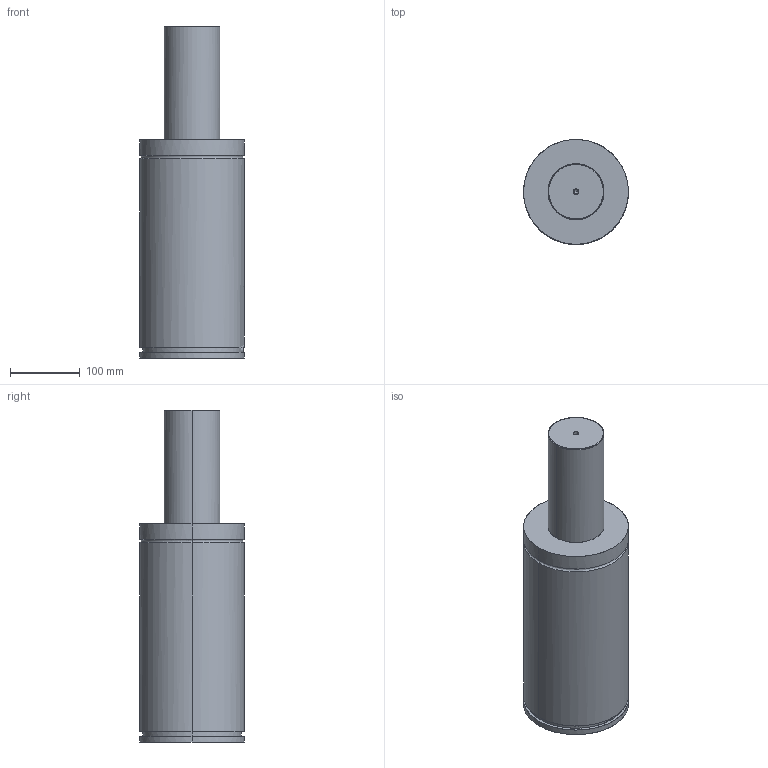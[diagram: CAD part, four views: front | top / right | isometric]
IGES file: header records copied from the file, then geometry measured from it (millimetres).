
Global section: file name: E:\UnigraphicsGraphicData\MISUMI_PRESS-PARTS\IGES\3d_gse150-160_03874_r00.igs; native system: NX V5.0; preprocessor: UGS NX IGES V5.0; author: MISUMI; date: 20110105.160753; units: millimetre
Bounding box: 150 x 150 x 475 mm (x, y, z)
Surface area: 231689.3 mm2 (no closed solid volume)
Topology: 0 solids, 0 shells, 75 faces, 604 edges, 602 vertices
Faces by surface type: bspline 75
